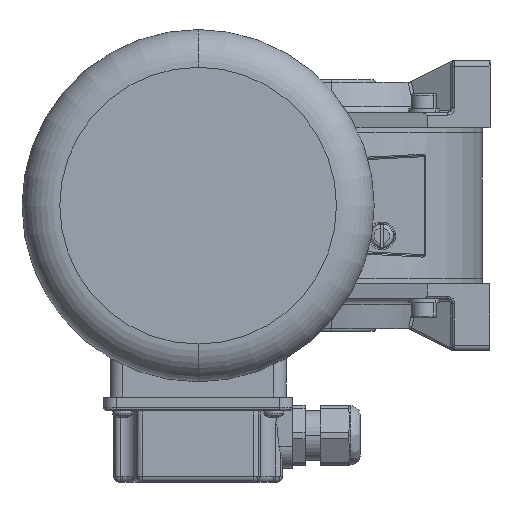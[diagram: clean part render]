
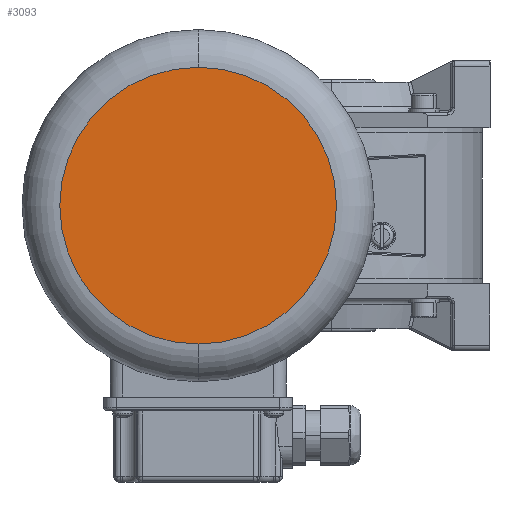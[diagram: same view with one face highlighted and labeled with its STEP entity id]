
A CAD part, left-side view. The second image highlights one B-rep face of the part: STEP entity #3093.
In plain terms, the highlighted planar face has unit normal (-1, 0, 0).
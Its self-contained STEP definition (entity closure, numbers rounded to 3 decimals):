
#908 = CIRCLE ( 'NONE', #3572, 55. ) ;
#1202 = CARTESIAN_POINT ( 'NONE',  ( 0., 0., 0. ) ) ;
#2390 = ORIENTED_EDGE ( 'NONE', *, *, #9608, .T. ) ;
#3093 = ADVANCED_FACE ( 'NONE', ( #32417 ), #14740, .F. ) ;
#3572 = AXIS2_PLACEMENT_3D ( 'NONE', #1202, #31731, #19065 ) ;
#4929 = CARTESIAN_POINT ( 'NONE',  ( 0., 0., 0. ) ) ;
#6546 = EDGE_LOOP ( 'NONE', ( #27439, #2390 ) ) ;
#9608 = EDGE_CURVE ( 'NONE', #12689, #13940, #908, .T. ) ;
#12689 = VERTEX_POINT ( 'NONE', #24707 ) ;
#13940 = VERTEX_POINT ( 'NONE', #22517 ) ;
#14740 = PLANE ( 'NONE',  #20318 ) ;
#15094 = DIRECTION ( 'NONE',  ( -1., 0., 0. ) ) ;
#16923 = DIRECTION ( 'NONE',  ( 0., 0., -1. ) ) ;
#19065 = DIRECTION ( 'NONE',  ( 0., 0., 1. ) ) ;
#20318 = AXIS2_PLACEMENT_3D ( 'NONE', #22279, #29757, #16923 ) ;
#20426 = AXIS2_PLACEMENT_3D ( 'NONE', #4929, #15094, #20786 ) ;
#20786 = DIRECTION ( 'NONE',  ( 0., 0., 1. ) ) ;
#22279 = CARTESIAN_POINT ( 'NONE',  ( 0., 0., 0. ) ) ;
#22517 = CARTESIAN_POINT ( 'NONE',  ( 0., 0., 55. ) ) ;
#24707 = CARTESIAN_POINT ( 'NONE',  ( 0., 0., -55. ) ) ;
#26266 = CIRCLE ( 'NONE', #20426, 55. ) ;
#27439 = ORIENTED_EDGE ( 'NONE', *, *, #30922, .T. ) ;
#29757 = DIRECTION ( 'NONE',  ( 1., 0., 0. ) ) ;
#30922 = EDGE_CURVE ( 'NONE', #13940, #12689, #26266, .T. ) ;
#31731 = DIRECTION ( 'NONE',  ( -1., 0., 0. ) ) ;
#32417 = FACE_OUTER_BOUND ( 'NONE', #6546, .T. ) ;
